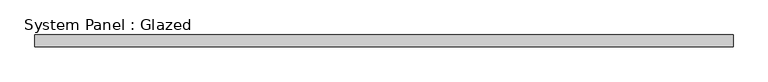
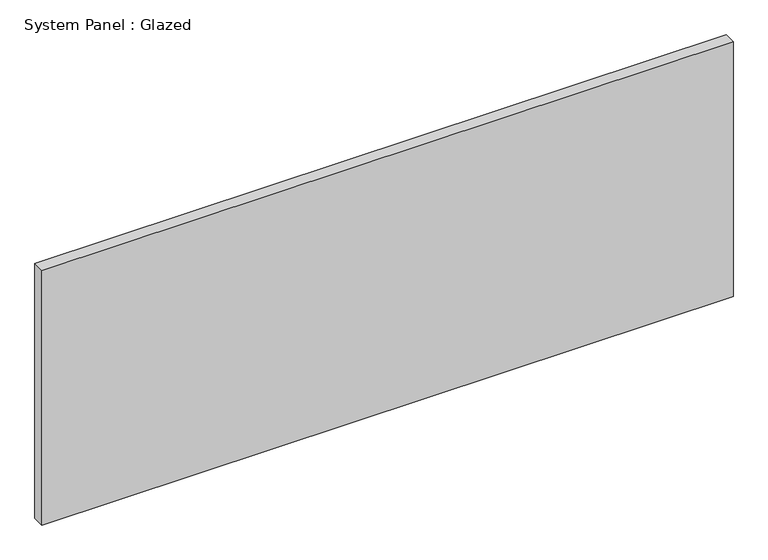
"""IFC4 building model written with IfcOpenShell, lengths in millimetres: plate geometry, System Panel : Glazed."""

from ifc_helpers import new_model, si_unit, origin, origin_with_axes, place, context, project, spatial, polyline, outline, extrude, source, transform, mapped, element, save


def system_panel_glazed_e96a6bf3(model_context):
    return source(origin(), model_context, "Body", "SweptSolid", [
        extrude(outline(polyline([(749.3, -44.45), (-749.3, -44.45), (-749.3, -19.05), (749.3, -19.05), (749.3, -44.45)])), origin_with_axes(), (0.0, 0.0, 1.0), 584.2),
    ])


if __name__ == "__main__":
    model = new_model("IFC4")
    model_context = context("Model", 3, world=origin())
    ifc_project = project(units=[si_unit("LENGTHUNIT", "METRE", prefix="MILLI")], contexts=[model_context])
    site = spatial("IfcSite", under=ifc_project)
    building = spatial("IfcBuilding", under=site)
    placement = place(None, origin())
    system_panel_glazed_shape = system_panel_glazed_e96a6bf3(model_context)
    element("IfcPlate", 1, ObjectType="System Panel : Glazed", at=placement, inside=building, context=model_context, shape_type="MappedRepresentation", body=[
        mapped(system_panel_glazed_shape, transform((0.0, 0.0, 0.0), x_axis=(1.0, 0.0, 0.0), y_axis=(0.0, 1.0, 0.0), z_axis=(0.0, 0.0, 1.0))),
    ])
    save(model, "model.ifc")
